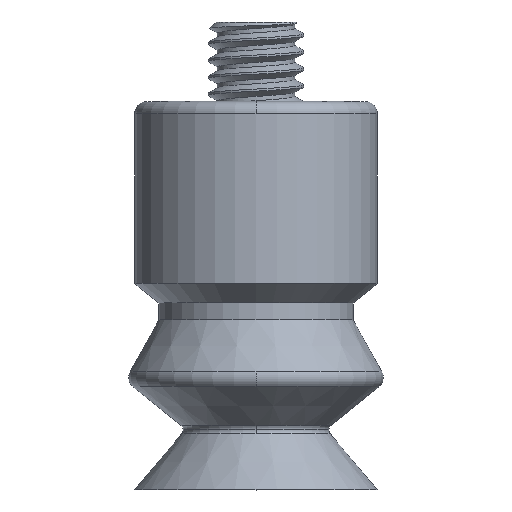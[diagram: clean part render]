
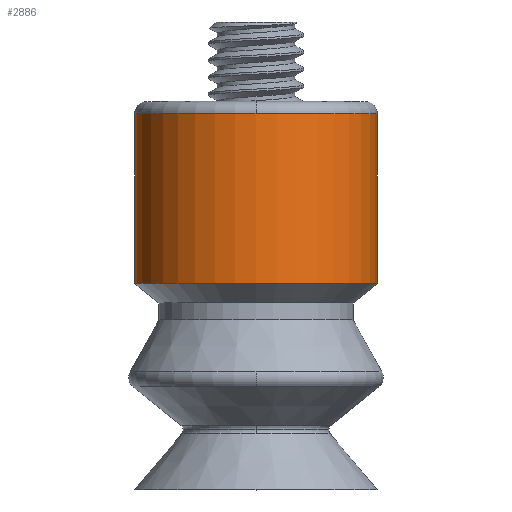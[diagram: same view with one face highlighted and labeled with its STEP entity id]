
A CAD part, top view. The second image highlights one B-rep face of the part: STEP entity #2886.
In plain terms, the highlighted cylindrical face has radius 5 mm (diameter 10 mm), a partial arc.
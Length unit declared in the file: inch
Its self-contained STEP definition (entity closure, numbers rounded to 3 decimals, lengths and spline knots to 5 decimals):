
#1 = AXIS2_PLACEMENT_3D ( 'NONE', #4228, #1975, #799 ) ;
#18 = VECTOR ( 'NONE', #1702, 39.37008 ) ;
#162 = VERTEX_POINT ( 'NONE', #4337 ) ;
#178 = ORIENTED_EDGE ( 'NONE', *, *, #328, .F. ) ;
#282 = CARTESIAN_POINT ( 'NONE',  ( 0.19685, 0.48228, 0. ) ) ;
#328 = EDGE_CURVE ( 'NONE', #870, #2925, #798, .T. ) ;
#486 = CYLINDRICAL_SURFACE ( 'NONE', #1, 0.19685 ) ;
#596 = ORIENTED_EDGE ( 'NONE', *, *, #4603, .T. ) ;
#757 = DIRECTION ( 'NONE',  ( 0., 1., 0. ) ) ;
#798 = LINE ( 'NONE', #4182, #4771 ) ;
#799 = DIRECTION ( 'NONE',  ( -1., 0., 0. ) ) ;
#804 = CARTESIAN_POINT ( 'NONE',  ( 0., 0.33465, 0. ) ) ;
#870 = VERTEX_POINT ( 'NONE', #2649 ) ;
#893 = EDGE_CURVE ( 'NONE', #2925, #4659, #3828, .T. ) ;
#900 = DIRECTION ( 'NONE',  ( 1., 0., 0. ) ) ;
#926 = VERTEX_POINT ( 'NONE', #1887 ) ;
#1165 = DIRECTION ( 'NONE',  ( 0., 1., 0. ) ) ;
#1418 = CARTESIAN_POINT ( 'NONE',  ( 0., 0.61024, 0. ) ) ;
#1573 = CARTESIAN_POINT ( 'NONE',  ( -0.19685, 0.61024, 0. ) ) ;
#1646 = CIRCLE ( 'NONE', #3542, 0.19685 ) ;
#1700 = AXIS2_PLACEMENT_3D ( 'NONE', #1931, #757, #3758 ) ;
#1702 = DIRECTION ( 'NONE',  ( 0., 1., 0. ) ) ;
#1887 = CARTESIAN_POINT ( 'NONE',  ( 0.19685, 0.61024, 0. ) ) ;
#1931 = CARTESIAN_POINT ( 'NONE',  ( 0., 0.61024, 0. ) ) ;
#1975 = DIRECTION ( 'NONE',  ( 0., 1., 0. ) ) ;
#2417 = ORIENTED_EDGE ( 'NONE', *, *, #4736, .T. ) ;
#2649 = CARTESIAN_POINT ( 'NONE',  ( -0.19685, 0.33465, 0. ) ) ;
#2698 = ORIENTED_EDGE ( 'NONE', *, *, #893, .F. ) ;
#2759 = CARTESIAN_POINT ( 'NONE',  ( 0., 0.61024, 0.19685 ) ) ;
#2886 = ADVANCED_FACE ( 'NONE', ( #4184 ), #486, .T. ) ;
#2920 = DIRECTION ( 'NONE',  ( 1., 0., 0. ) ) ;
#2925 = VERTEX_POINT ( 'NONE', #1573 ) ;
#3373 = CIRCLE ( 'NONE', #3451, 0.19685 ) ;
#3451 = AXIS2_PLACEMENT_3D ( 'NONE', #1418, #4420, #2920 ) ;
#3485 = EDGE_LOOP ( 'NONE', ( #596, #2417, #3649, #2698, #178 ) ) ;
#3542 = AXIS2_PLACEMENT_3D ( 'NONE', #804, #1165, #900 ) ;
#3649 = ORIENTED_EDGE ( 'NONE', *, *, #4205, .F. ) ;
#3758 = DIRECTION ( 'NONE',  ( 1., 0., 0. ) ) ;
#3771 = DIRECTION ( 'NONE',  ( 0., 1., 0. ) ) ;
#3828 = CIRCLE ( 'NONE', #1700, 0.19685 ) ;
#4182 = CARTESIAN_POINT ( 'NONE',  ( -0.19685, 0.48228, 0. ) ) ;
#4184 = FACE_OUTER_BOUND ( 'NONE', #3485, .T. ) ;
#4205 = EDGE_CURVE ( 'NONE', #4659, #926, #3373, .T. ) ;
#4228 = CARTESIAN_POINT ( 'NONE',  ( 0., 0.48228, 0. ) ) ;
#4328 = LINE ( 'NONE', #282, #18 ) ;
#4337 = CARTESIAN_POINT ( 'NONE',  ( 0.19685, 0.33465, 0. ) ) ;
#4420 = DIRECTION ( 'NONE',  ( 0., 1., 0. ) ) ;
#4603 = EDGE_CURVE ( 'NONE', #870, #162, #1646, .T. ) ;
#4659 = VERTEX_POINT ( 'NONE', #2759 ) ;
#4736 = EDGE_CURVE ( 'NONE', #162, #926, #4328, .T. ) ;
#4771 = VECTOR ( 'NONE', #3771, 39.37008 ) ;
